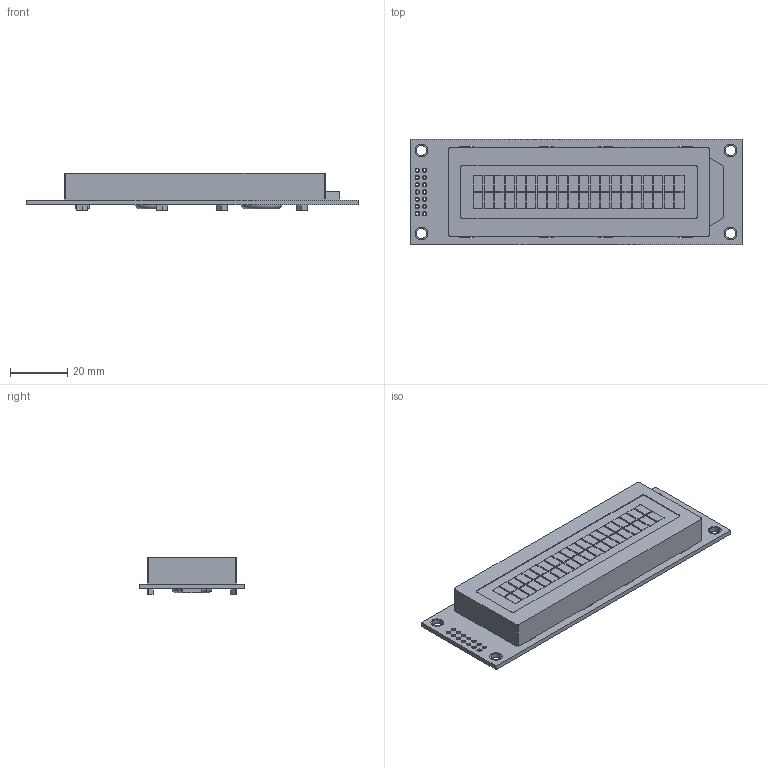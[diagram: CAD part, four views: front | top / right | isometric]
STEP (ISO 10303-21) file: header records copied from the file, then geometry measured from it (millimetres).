
FILE_DESCRIPTION (( 'STEP AP214' ), '1' );
FILE_NAME ('NHD-0220D3Z.STEP', '2017-08-09T16:27:04', ( '' ), ( '' ), 'SwSTEP 2.0', 'SolidWorks 2017', '' );
FILE_SCHEMA (( 'AUTOMOTIVE_DESIGN' ));
Length unit declared in the file: millimetre
Products named in the file (1): NHD-0220D3Z
Bounding box: 116 x 37 x 13 mm (x, y, z)
Volume: 33756.7 mm3; surface area: 11960.2 mm2
Topology: 1 solids, 1 shells, 535 faces, 1340 edges, 880 vertices
Faces by surface type: plane 391, cylinder 140, torus 4
Entity records: 19645 total; most frequent: CARTESIAN_POINT 2756, DIRECTION 2704, ORIENTED_EDGE 2680, EDGE_CURVE 1340, VECTOR 1048, LINE 1048, VERTEX_POINT 880, AXIS2_PLACEMENT_3D 828
